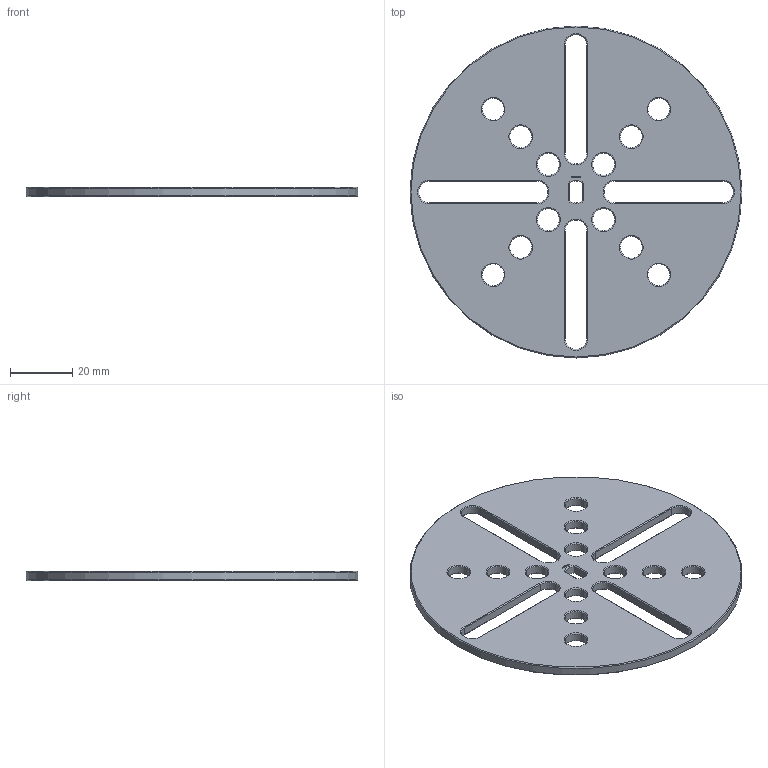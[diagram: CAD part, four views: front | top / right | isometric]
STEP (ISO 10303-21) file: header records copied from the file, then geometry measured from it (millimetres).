
FILE_DESCRIPTION(/* description */ (''),/* implementation_level */ '2;1');
FILE_NAME(/* name */ '/Users/paulokiefe/Desktop/STEMFIE/Fasteners/Washers/Fixed/Washer WSR FXD BU0.25x8.50 - SPN-WSR-0031 v2.step',/* time_stamp */ '2020-09-27T23:22:17+02:00',/* author */ (''),/* organization */ (''),/* preprocessor_version */ 'ST-DEVELOPER v18.1',/* originating_system */ 'Autodesk Translation Framework v9.3.0.1241',/* authorisation */ '');
FILE_SCHEMA (('AUTOMOTIVE_DESIGN { 1 0 10303 214 3 1 1 }'));
Length unit declared in the file: millimetre
Products named in the file (1): Washer WSR FXD BU0.25x8.50 - SPN-WSR-0031
Bounding box: 106.25 x 106.25 x 3.12 mm (x, y, z)
Volume: 22596.8 mm3; surface area: 17244.5 mm2
Topology: 1 solids, 1 shells, 345 faces, 927 edges, 596 vertices
Faces by surface type: plane 276, cone 46, cylinder 23
Full cylindrical faces by diameter (mm): 7 x12, 106.25 x1
Entity records: 10674 total; most frequent: CARTESIAN_POINT 1893, ORIENTED_EDGE 1854, DIRECTION 1703, EDGE_CURVE 927, LINE 827, VECTOR 827, VERTEX_POINT 596, AXIS2_PLACEMENT_3D 438
